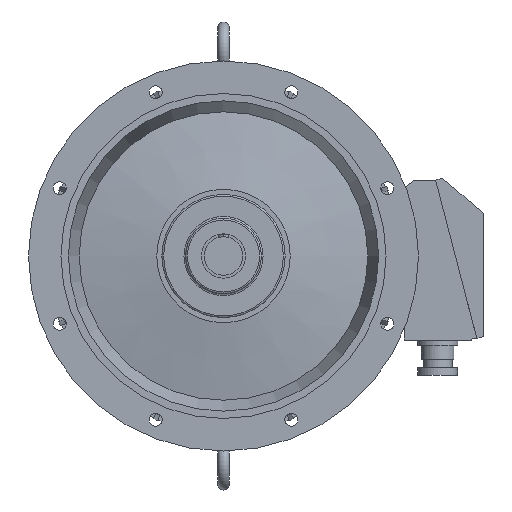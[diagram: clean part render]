
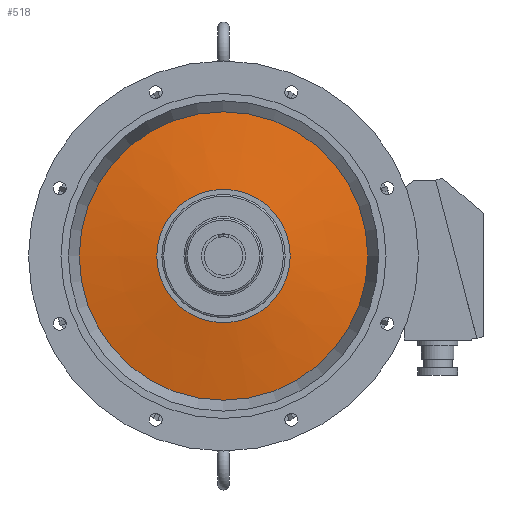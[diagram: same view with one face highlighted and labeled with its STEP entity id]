
A CAD part, front view. The second image highlights one B-rep face of the part: STEP entity #518.
In plain terms, the highlighted conical face has half-angle 80.426 degrees and reference radius 112.912 mm.
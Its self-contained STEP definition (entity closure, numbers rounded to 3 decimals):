
#518 = ADVANCED_FACE( '', ( #1508, #1509 ), #1510, .T. );
#1508 = FACE_OUTER_BOUND( '', #2567, .T. );
#1509 = FACE_BOUND( '', #2568, .T. );
#1510 = CONICAL_SURFACE( '', #2569, 112.912, 1.404 );
#2567 = EDGE_LOOP( '', ( #6231 ) );
#2568 = EDGE_LOOP( '', ( #6232 ) );
#2569 = AXIS2_PLACEMENT_3D( '', #6233, #6234, #6235 );
#6231 = ORIENTED_EDGE( '', *, *, #7944, .T. );
#6232 = ORIENTED_EDGE( '', *, *, #7945, .F. );
#6233 = CARTESIAN_POINT( '', ( 0., 182.516, 0. ) );
#6234 = DIRECTION( '', ( 0., 1., 0. ) );
#6235 = DIRECTION( '', ( -1., 0., 0. ) );
#7944 = EDGE_CURVE( '', #10095, #10095, #10096, .T. );
#7945 = EDGE_CURVE( '', #10097, #10097, #10098, .T. );
#10095 = VERTEX_POINT( '', #14467 );
#10096 = CIRCLE( '', #14468, 244.069 );
#10097 = VERTEX_POINT( '', #14469 );
#10098 = CIRCLE( '', #14470, 112.912 );
#14467 = CARTESIAN_POINT( '', ( 244.069, 204.637, 0. ) );
#14468 = AXIS2_PLACEMENT_3D( '', #16134, #16135, #16136 );
#14469 = CARTESIAN_POINT( '', ( 112.912, 182.516, 0. ) );
#14470 = AXIS2_PLACEMENT_3D( '', #16137, #16138, #16139 );
#16134 = CARTESIAN_POINT( '', ( 0., 204.637, 0. ) );
#16135 = DIRECTION( '', ( 0., -1., 0. ) );
#16136 = DIRECTION( '', ( 1., 0., 0. ) );
#16137 = CARTESIAN_POINT( '', ( 0., 182.516, 0. ) );
#16138 = DIRECTION( '', ( 0., -1., 0. ) );
#16139 = DIRECTION( '', ( 1., 0., 0. ) );
